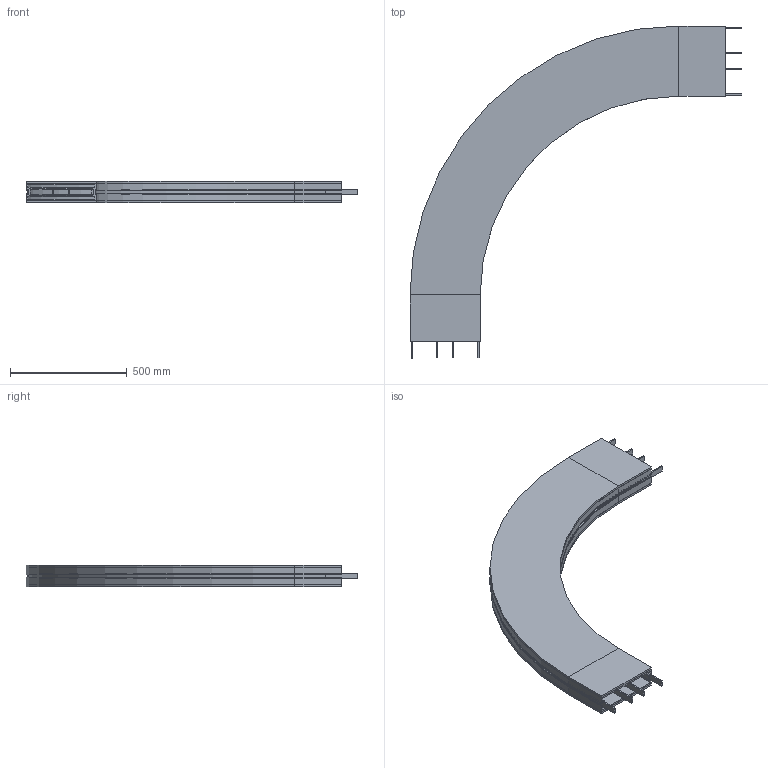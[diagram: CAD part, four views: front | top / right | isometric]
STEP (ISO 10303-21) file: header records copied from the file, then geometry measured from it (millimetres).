
FILE_DESCRIPTION (( 'STEP AP214' ), '1' );
FILE_NAME ('FBBP 90A300R1000L200L200.00.step', '2026-05-29T10:20:45', ( '' ), ( '' ), 'SwSTEP 2.0', 'SolidWorks 2024', '' );
FILE_SCHEMA (( 'AUTOMOTIVE_DESIGN' ));
Length unit declared in the file: millimetre
Products named in the file (1): FBBP 90A300R1000L200L200.00
Bounding box: 1420 x 1420 x 93 mm (x, y, z)
Volume: 21450051 mm3; surface area: 5570038.3 mm2
Topology: 11 solids, 11 shells, 375 faces, 845 edges, 492 vertices
Faces by surface type: plane 274, cone 66, cylinder 30, torus 5
Entity records: 10191 total; most frequent: DIRECTION 1724, CARTESIAN_POINT 1713, ORIENTED_EDGE 1690, EDGE_CURVE 845, VECTOR 718, LINE 718, AXIS2_PLACEMENT_3D 503, VERTEX_POINT 492
